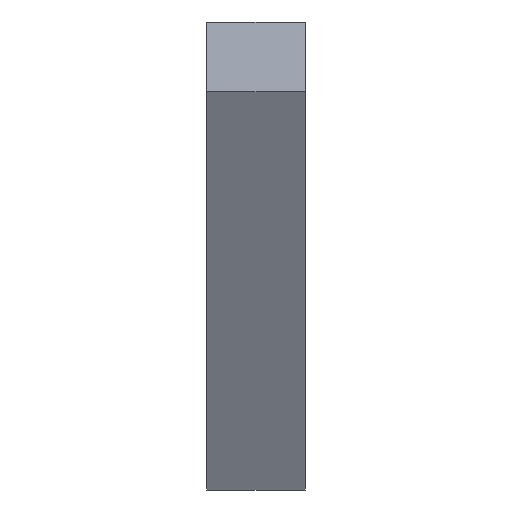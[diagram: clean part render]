
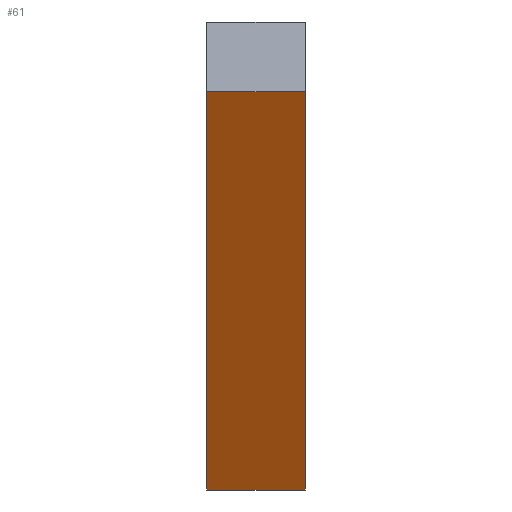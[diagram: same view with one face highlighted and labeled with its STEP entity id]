
A CAD part, front view. The second image highlights one B-rep face of the part: STEP entity #61.
In plain terms, the highlighted planar face has unit normal (0, -0.174, -0.985).
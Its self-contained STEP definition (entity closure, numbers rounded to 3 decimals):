
#22=CARTESIAN_POINT('',(-173.5,-123.932,285.654));
#23=DIRECTION('',(0.0,-0.174,-0.985));
#24=DIRECTION('',(1.0,0.0,0.0));
#25=AXIS2_PLACEMENT_3D('',#22,#23,#24);
#26=PLANE('',#25);
#27=CARTESIAN_POINT('',(-173.5,-123.932,285.654));
#28=VERTEX_POINT('',#27);
#29=CARTESIAN_POINT('',(-141.5,-123.932,285.654));
#30=VERTEX_POINT('',#29);
#31=CARTESIAN_POINT('',(-173.5,-123.932,285.654));
#32=DIRECTION('',(1.0,0.0,0.0));
#33=VECTOR('',#32,1.);
#34=LINE('',#31,#33);
#35=EDGE_CURVE('',#28,#30,#34,.T.);
#36=ORIENTED_EDGE('',*,*,#35,.T.);
#37=CARTESIAN_POINT('',(-141.5,-855.644,414.675));
#38=VERTEX_POINT('',#37);
#39=CARTESIAN_POINT('',(-141.5,-123.932,285.654));
#40=DIRECTION('',(0.0,-0.985,0.174));
#41=VECTOR('',#40,1.);
#42=LINE('',#39,#41);
#43=EDGE_CURVE('',#30,#38,#42,.T.);
#44=ORIENTED_EDGE('',*,*,#43,.T.);
#45=CARTESIAN_POINT('',(-173.5,-855.644,414.675));
#46=VERTEX_POINT('',#45);
#47=CARTESIAN_POINT('',(-173.5,-855.644,414.675));
#48=DIRECTION('',(1.0,0.0,0.0));
#49=VECTOR('',#48,1.);
#50=LINE('',#47,#49);
#51=EDGE_CURVE('',#46,#38,#50,.T.);
#52=ORIENTED_EDGE('',*,*,#51,.F.);
#53=CARTESIAN_POINT('',(-173.5,-123.932,285.654));
#54=DIRECTION('',(0.0,-0.985,0.174));
#55=VECTOR('',#54,1.);
#56=LINE('',#53,#55);
#57=EDGE_CURVE('',#28,#46,#56,.T.);
#58=ORIENTED_EDGE('',*,*,#57,.F.);
#59=EDGE_LOOP('',(#36,#44,#52,#58));
#60=FACE_BOUND('',#59,.T.);
#61=ADVANCED_FACE('',(#60),#26,.T.);
